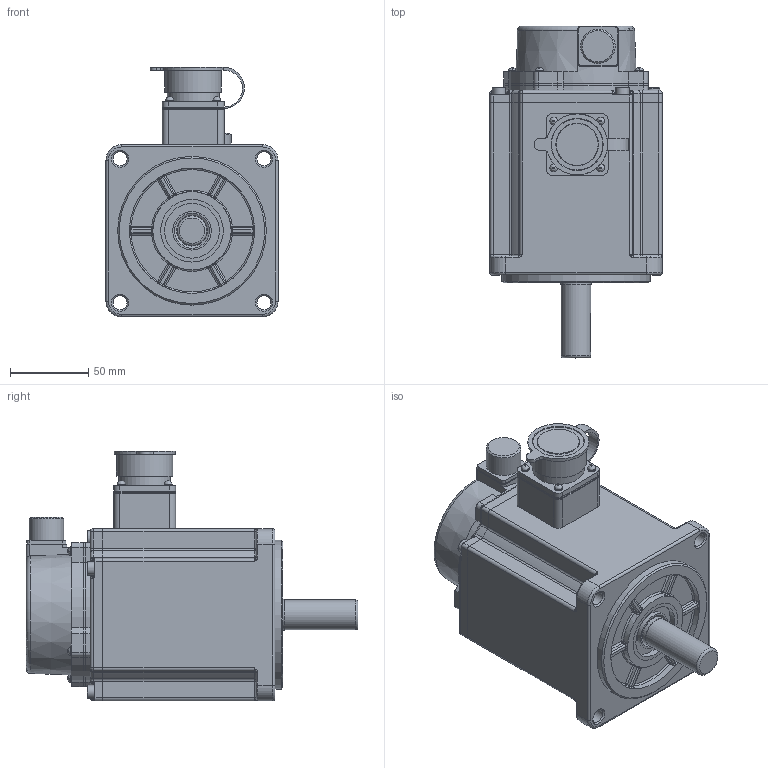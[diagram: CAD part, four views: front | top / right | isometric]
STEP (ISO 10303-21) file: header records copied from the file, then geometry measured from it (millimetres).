
FILE_DESCRIPTION(/* description */ (''),/* implementation_level */ '2;1');
FILE_NAME(/* name */ '标准6N.stp',/* time_stamp */ '2024-04-19T09:36:49+08:00',/* author */ (''),/* organization */ (''),/* preprocessor_version */ 'ST-DEVELOPER v18.1',/* originating_system */ 'SIEMENS PLM Software NX 2000',/* authorisation */ '');
FILE_SCHEMA (('AUTOMOTIVE_DESIGN { 1 0 10303 214 3 1 1 1 }'));
Length unit declared in the file: millimetre
Products named in the file (1): 92504378DBD25y12
Bounding box: 110 x 212 x 159.5 mm (x, y, z)
Volume: 1521588.1 mm3; surface area: 187692.8 mm2
Topology: 21 solids, 23 shells, 996 faces, 2337 edges, 1372 vertices
Faces by surface type: cylinder 364, plane 330, torus 94, bspline 92, sphere 60, cone 56
Full cylindrical faces by diameter (mm): 2 x4, 2.5 x10, 3.5 x4, 4.1 x8, 4.2 x3, 4.826 x4, 5 x6, 5.5 x3, 8.5 x4, 9 x4, 19 x1, 19.6 x1, 20 x1, 22 x1, 22.288 x1, 24.616 x1, 27 x2, 30 x1, 33 x3, 35 x1, 36 x1, 40 x2, 95 x1, 100 x1, 104 x1
Entity records: 30268 total; most frequent: CARTESIAN_POINT 8343, DIRECTION 4780, ORIENTED_EDGE 4226, EDGE_CURVE 2113, AXIS2_PLACEMENT_3D 1964, VERTEX_POINT 1325, EDGE_LOOP 1204, CIRCLE 1043
